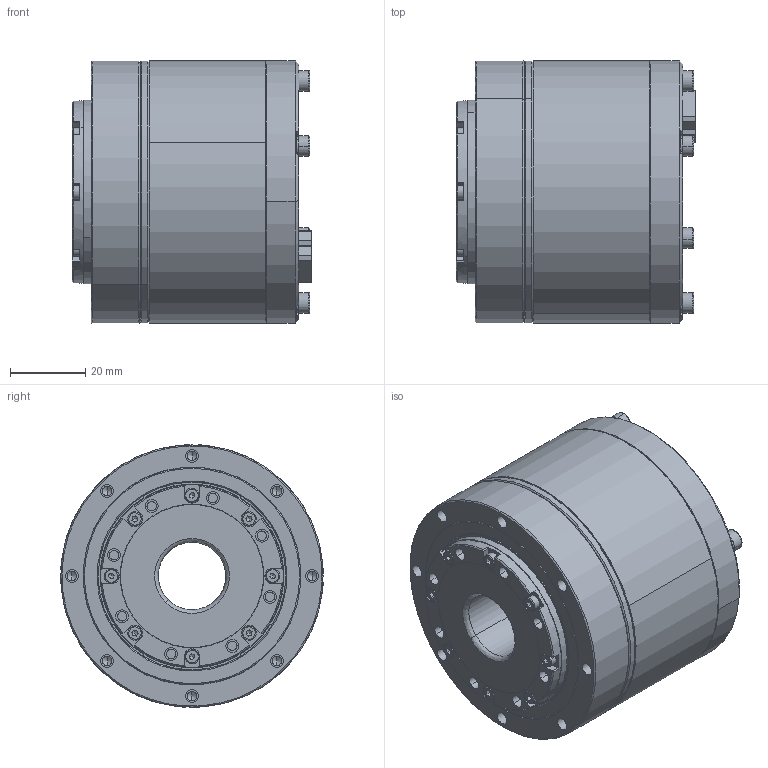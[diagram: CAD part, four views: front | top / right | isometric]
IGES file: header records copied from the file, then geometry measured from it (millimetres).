
Start section: SolidWorks IGES file using analytic representation for surfaces
Global section: file name: 89HG:\李鸿彬\00 官网需更新模型\00官网需更新模型 源文件\官网更新3D\I型\eRob70F 扁平型\eRob70F 扁平型 不带刹车（V3）\eRob70F××I-F-XX-18CX_V3_MC2A.AX.XX\eRob70F××I-F-XX-18CX_V3_MC2A.AX.XX.IGS; native system: SolidWorks 2021; preprocessor: SolidWorks 2021; author: ZERO; date: 250402.115442; units: millimetre
Bounding box: 63.8 x 69.95 x 69.95 mm (x, y, z)
Volume: 201874.4 mm3; surface area: 31533.8 mm2
Topology: 1 solids, 1 shells, 1613 faces, 4329 edges, 2789 vertices
Faces by surface type: plane 1112, revolution 365, bspline 136
